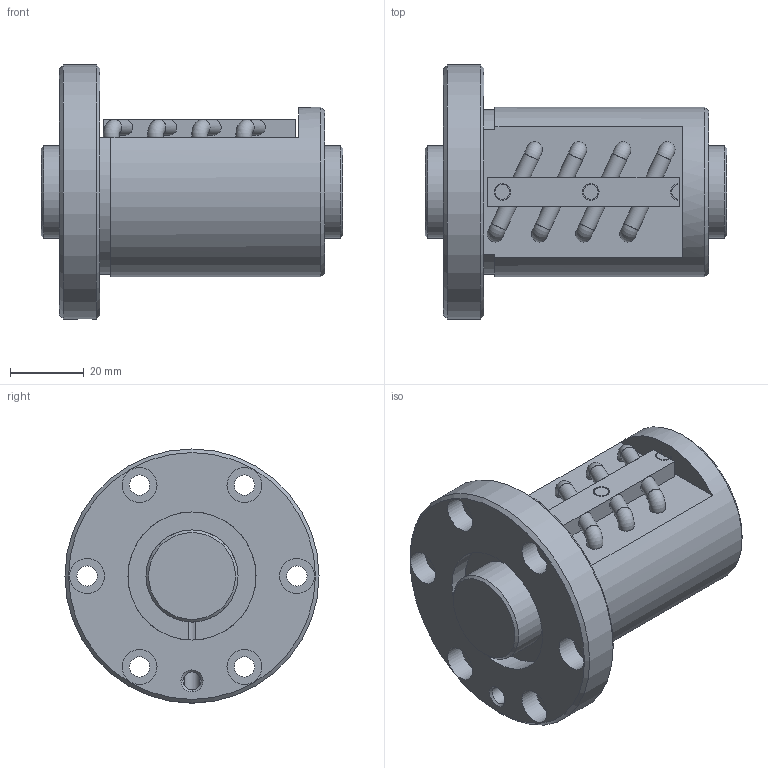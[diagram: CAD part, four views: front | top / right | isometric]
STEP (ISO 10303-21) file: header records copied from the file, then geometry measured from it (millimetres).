
FILE_DESCRIPTION(/* description */ ('STEP AP203'),/* implementation_level */ '2;1');
FILE_NAME(/* name */ 'BIF2504V-10RRG0+82LC0_000',/* time_stamp */ '2024-07-15T08:17:15+02:00',/* author */ ('License CC BY-ND 4.0'),/* organization */ ('CADENAS'),/* preprocessor_version */ 'ST-DEVELOPER v19.3',/* originating_system */ 'PARTsolutions',/* authorisation */ ' ');
FILE_SCHEMA (('CONFIG_CONTROL_DESIGN'));
Length unit declared in the file: millimetre
Products named in the file (3): BIF2504V-10RRG0+82LC0_000; BIF2504V-10RR000 Shaft; BIF2504V-10RR Nut
Assembly tree (2 placements, depth 2):
  BIF2504V-10RRG0+82LC0_000
    BIF2504V-10RR000 Shaft
    BIF2504V-10RR Nut
Bounding box: 82 x 69 x 69 mm (x, y, z)
Volume: 130857.1 mm3; surface area: 34186 mm2
Topology: 2 solids, 2 shells, 117 faces, 280 edges, 179 vertices
Faces by surface type: plane 55, cylinder 46, cone 8, torus 8
Full cylindrical faces by diameter (mm): 4 x2, 4.25 x2, 4.3 x8, 4.5 x2, 4.917 x1, 5.5 x6, 9.5 x6, 25 x2, 34.8 x2, 46 x1, 69 x1
Entity records: 3323 total; most frequent: CARTESIAN_POINT 629, DIRECTION 594, ORIENTED_EDGE 446, AXIS2_PLACEMENT_3D 266, EDGE_CURVE 223, EDGE_LOOP 204, FACE_BOUND 204, VERTEX_POINT 163
